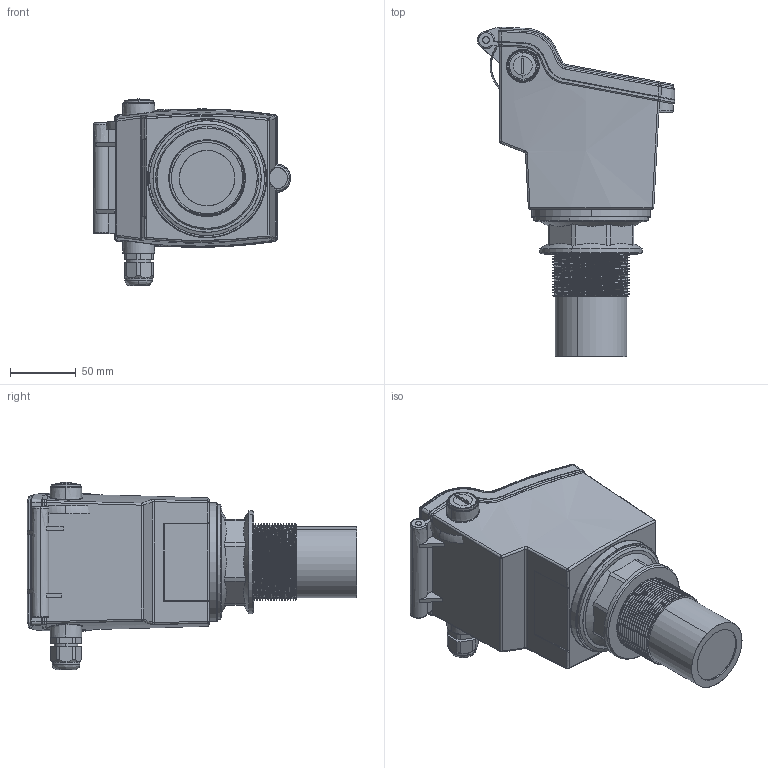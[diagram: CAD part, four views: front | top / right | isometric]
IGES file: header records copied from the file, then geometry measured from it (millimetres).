
Start section: SolidWorks IGES file using analytic representation for surfaces
Global section: file name: C:\Users\Äîì\Desktop\Äàò÷èêè ìîäåëè\ECHO\Êîìïàñ\ECHO ðåçüáà.IGS; native system: SolidWorks 2020; preprocessor: SolidWorks 2020; author: Äîì; date: 210215.143647; units: millimetre
Bounding box: 149.39 x 249.91 x 142 mm (x, y, z)
Surface area: 122971.2 mm2 (no closed solid volume)
Topology: 0 solids, 0 shells, 422 faces, 6102 edges, 6096 vertices
Faces by surface type: bspline 248, revolution 174
